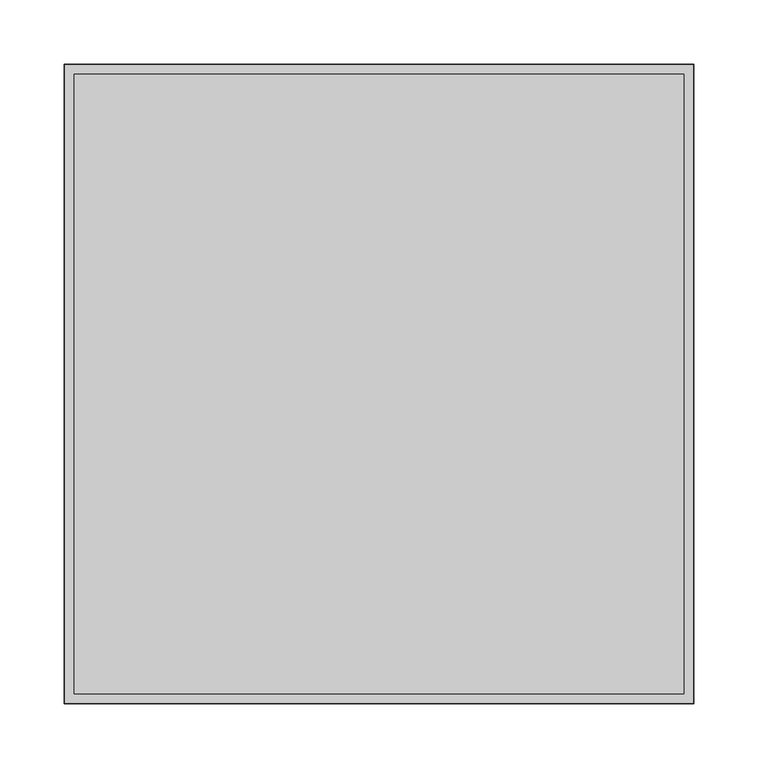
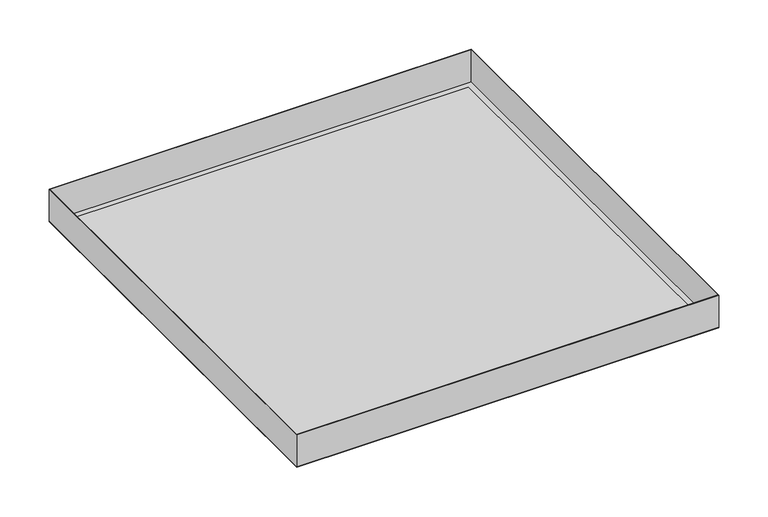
"""IFC4 building model written with IfcOpenShell, lengths in millimetres: proxy geometry, durlum_S7KS_panel : durlum_S7KS_panel_wall_corner."""

from ifc_helpers import new_model, si_unit, frame, origin, origin_with_axes, place, context, project, spatial, polyline, outline, extrude, source, transform, mapped, element, save


def generic_models_bec56f6c(model_context):
    return source(origin(), model_context, "Body", "SweptSolid", [
        extrude(outline(polyline([(246.0, 249.75), (246.0, -249.75), (-246.0, -249.75), (-246.0, 249.75), (246.0, 249.75)]), holes=[polyline([(245.4, 249.15), (-245.4, 249.15), (-245.4, -249.15), (245.4, -249.15), (245.4, 249.15)])]), frame((0.0, 0.0, 0.6), z_axis=(0.0, 0.0, 1.0), x_axis=(1.0, 0.0, 0.0)), (0.0, 0.0, 1.0), 39.4),
        extrude(outline(polyline([(238.0, 241.75), (238.0, -241.75), (-238.0, -241.75), (-238.0, 241.75), (238.0, 241.75)])), frame((0.0, 0.0, 0.6), z_axis=(0.0, 0.0, 1.0), x_axis=(1.0, 0.0, 0.0)), (0.0, 0.0, 1.0), 0.6),
        extrude(outline(polyline([(246.0, 249.75), (246.0, -249.75), (-246.0, -249.75), (-246.0, 249.75), (246.0, 249.75)]), holes=[polyline([(238.0, 241.75), (-238.0, 241.75), (-238.0, -241.75), (238.0, -241.75), (238.0, 241.75)])]), origin_with_axes(), (0.0, 0.0, 1.0), 0.6),
        extrude(outline(polyline([(238.0, 241.75), (238.0, -241.75), (-238.0, -241.75), (-238.0, 241.75), (238.0, 241.75)])), origin_with_axes(), (0.0, 0.0, 1.0), 0.6),
    ])


if __name__ == "__main__":
    model = new_model("IFC4")
    model_context = context("Model", 3, world=origin())
    ifc_project = project(units=[si_unit("LENGTHUNIT", "METRE", prefix="MILLI")], contexts=[model_context])
    site = spatial("IfcSite", under=ifc_project)
    building = spatial("IfcBuilding", under=site)
    placement = place(None, origin())
    generic_models_shape = generic_models_bec56f6c(model_context)
    element("IfcBuildingElementProxy", 1, Name="durlum_S7KS_panel : durlum_S7KS_panel_wall_corner", ObjectType="durlum_S7KS_panel : durlum_S7KS_panel_wall_corner", at=placement, inside=building, context=model_context, shape_type="MappedRepresentation", body=[
        mapped(generic_models_shape, transform((0.0, 0.0, 0.0), x_axis=(1.0, 0.0, 0.0), y_axis=(0.0, 1.0, 0.0), z_axis=(0.0, 0.0, 1.0))),
    ])
    save(model, "model.ifc")
